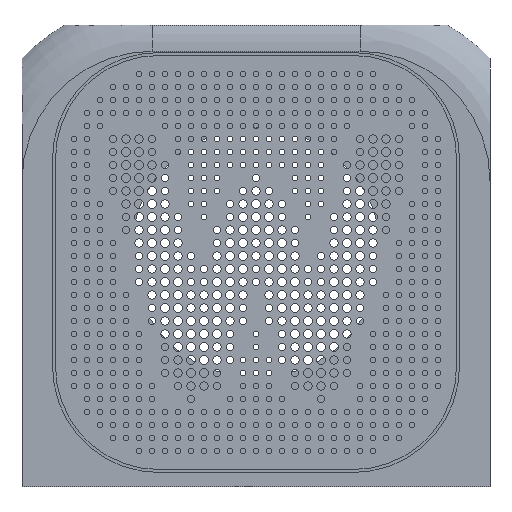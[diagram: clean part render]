
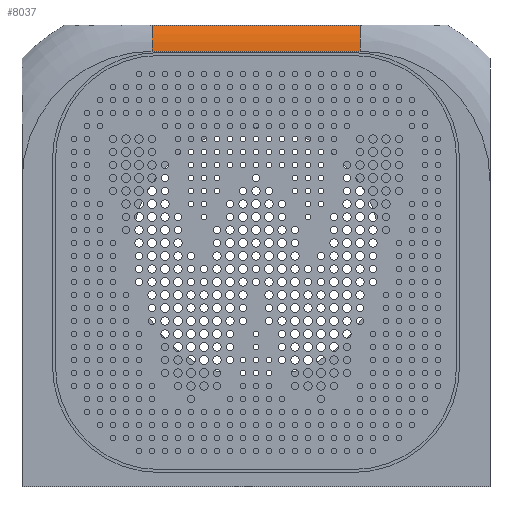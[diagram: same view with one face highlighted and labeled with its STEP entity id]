
A CAD part, front view. The second image highlights one B-rep face of the part: STEP entity #8037.
In plain terms, the highlighted cylindrical face has radius 9.2 mm (diameter 18.4 mm), a partial arc.
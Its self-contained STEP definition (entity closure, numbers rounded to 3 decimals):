
#7096 = PLANE('',#7097);
#7097 = AXIS2_PLACEMENT_3D('',#7098,#7099,#7100);
#7098 = CARTESIAN_POINT('',(-45.2,-14.4,-76.2));
#7099 = DIRECTION('',(0.,1.,0.));
#7100 = DIRECTION('',(0.,-0.,1.));
#7181 = VERTEX_POINT('',#7182);
#7182 = CARTESIAN_POINT('',(-16.,-14.4,67.));
#7201 = TOROIDAL_SURFACE('',#7202,20.,9.2);
#7202 = AXIS2_PLACEMENT_3D('',#7203,#7204,#7205);
#7203 = CARTESIAN_POINT('',(-16.,-5.2,47.));
#7204 = DIRECTION('',(0.,1.,0.));
#7205 = DIRECTION('',(0.,0.,1.));
#7213 = EDGE_CURVE('',#7214,#7181,#7216,.T.);
#7214 = VERTEX_POINT('',#7215);
#7215 = CARTESIAN_POINT('',(16.,-14.4,67.));
#7216 = SURFACE_CURVE('',#7217,(#7221,#7228),.PCURVE_S1.);
#7217 = LINE('',#7218,#7219);
#7218 = CARTESIAN_POINT('',(16.,-14.4,67.));
#7219 = VECTOR('',#7220,1.);
#7220 = DIRECTION('',(-1.,-0.,-0.));
#7221 = PCURVE('',#7096,#7222);
#7222 = DEFINITIONAL_REPRESENTATION('',(#7223),#7227);
#7223 = LINE('',#7224,#7225);
#7224 = CARTESIAN_POINT('',(143.2,61.2));
#7225 = VECTOR('',#7226,1.);
#7226 = DIRECTION('',(0.,-1.));
#7227 = ( GEOMETRIC_REPRESENTATION_CONTEXT(2) 
PARAMETRIC_REPRESENTATION_CONTEXT() REPRESENTATION_CONTEXT('2D SPACE',''
  ) );
#7228 = PCURVE('',#7229,#7234);
#7229 = CYLINDRICAL_SURFACE('',#7230,9.2);
#7230 = AXIS2_PLACEMENT_3D('',#7231,#7232,#7233);
#7231 = CARTESIAN_POINT('',(16.,-5.2,67.));
#7232 = DIRECTION('',(-1.,-0.,-0.));
#7233 = DIRECTION('',(0.,-1.,0.));
#7234 = DEFINITIONAL_REPRESENTATION('',(#7235),#7239);
#7235 = LINE('',#7236,#7237);
#7236 = CARTESIAN_POINT('',(0.,0.));
#7237 = VECTOR('',#7238,1.);
#7238 = DIRECTION('',(0.,1.));
#7239 = ( GEOMETRIC_REPRESENTATION_CONTEXT(2) 
PARAMETRIC_REPRESENTATION_CONTEXT() REPRESENTATION_CONTEXT('2D SPACE',''
  ) );
#7262 = TOROIDAL_SURFACE('',#7263,20.,9.2);
#7263 = AXIS2_PLACEMENT_3D('',#7264,#7265,#7266);
#7264 = CARTESIAN_POINT('',(16.,-5.2,47.));
#7265 = DIRECTION('',(0.,1.,0.));
#7266 = DIRECTION('',(1.,0.,0.));
#7920 = VERTEX_POINT('',#7921);
#7921 = CARTESIAN_POINT('',(16.,-13.485,71.));
#7981 = PLANE('',#7982);
#7982 = AXIS2_PLACEMENT_3D('',#7983,#7984,#7985);
#7983 = CARTESIAN_POINT('',(-36.,-15.,71.));
#7984 = DIRECTION('',(0.,0.,1.));
#7985 = DIRECTION('',(1.,0.,0.));
#8016 = EDGE_CURVE('',#7214,#7920,#8017,.T.);
#8017 = SURFACE_CURVE('',#8018,(#8023,#8029),.PCURVE_S1.);
#8018 = CIRCLE('',#8019,9.2);
#8019 = AXIS2_PLACEMENT_3D('',#8020,#8021,#8022);
#8020 = CARTESIAN_POINT('',(16.,-5.2,67.));
#8021 = DIRECTION('',(-1.,0.,0.));
#8022 = DIRECTION('',(0.,0.,1.));
#8023 = PCURVE('',#7262,#8024);
#8024 = DEFINITIONAL_REPRESENTATION('',(#8025),#8028);
#8025 = B_SPLINE_CURVE_WITH_KNOTS('',1,(#8026,#8027),.UNSPECIFIED.,.F.,
  .F.,(2,2),(4.712,6.283),.PIECEWISE_BEZIER_KNOTS.);
#8026 = CARTESIAN_POINT('',(4.712,4.712));
#8027 = CARTESIAN_POINT('',(4.712,6.283));
#8028 = ( GEOMETRIC_REPRESENTATION_CONTEXT(2) 
PARAMETRIC_REPRESENTATION_CONTEXT() REPRESENTATION_CONTEXT('2D SPACE',''
  ) );
#8029 = PCURVE('',#7229,#8030);
#8030 = DEFINITIONAL_REPRESENTATION('',(#8031),#8034);
#8031 = B_SPLINE_CURVE_WITH_KNOTS('',1,(#8032,#8033),.UNSPECIFIED.,.F.,
  .F.,(2,2),(4.712,6.283),.PIECEWISE_BEZIER_KNOTS.);
#8032 = CARTESIAN_POINT('',(0.,0.));
#8033 = CARTESIAN_POINT('',(1.571,0.));
#8034 = ( GEOMETRIC_REPRESENTATION_CONTEXT(2) 
PARAMETRIC_REPRESENTATION_CONTEXT() REPRESENTATION_CONTEXT('2D SPACE',''
  ) );
#8037 = ADVANCED_FACE('',(#8038),#7229,.T.);
#8038 = FACE_BOUND('',#8039,.T.);
#8039 = EDGE_LOOP('',(#8040,#8041,#8042,#8063));
#8040 = ORIENTED_EDGE('',*,*,#7213,.F.);
#8041 = ORIENTED_EDGE('',*,*,#8016,.T.);
#8042 = ORIENTED_EDGE('',*,*,#8043,.T.);
#8043 = EDGE_CURVE('',#7920,#8044,#8046,.T.);
#8044 = VERTEX_POINT('',#8045);
#8045 = CARTESIAN_POINT('',(-16.,-13.485,71.));
#8046 = SURFACE_CURVE('',#8047,(#8051,#8057),.PCURVE_S1.);
#8047 = LINE('',#8048,#8049);
#8048 = CARTESIAN_POINT('',(16.,-13.485,71.));
#8049 = VECTOR('',#8050,1.);
#8050 = DIRECTION('',(-1.,-0.,-0.));
#8051 = PCURVE('',#7229,#8052);
#8052 = DEFINITIONAL_REPRESENTATION('',(#8053),#8056);
#8053 = B_SPLINE_CURVE_WITH_KNOTS('',1,(#8054,#8055),.UNSPECIFIED.,.F.,
  .F.,(2,2),(0.,32.),.PIECEWISE_BEZIER_KNOTS.);
#8054 = CARTESIAN_POINT('',(0.45,0.));
#8055 = CARTESIAN_POINT('',(0.45,32.));
#8056 = ( GEOMETRIC_REPRESENTATION_CONTEXT(2) 
PARAMETRIC_REPRESENTATION_CONTEXT() REPRESENTATION_CONTEXT('2D SPACE',''
  ) );
#8057 = PCURVE('',#7981,#8058);
#8058 = DEFINITIONAL_REPRESENTATION('',(#8059),#8062);
#8059 = B_SPLINE_CURVE_WITH_KNOTS('',1,(#8060,#8061),.UNSPECIFIED.,.F.,
  .F.,(2,2),(0.,32.),.PIECEWISE_BEZIER_KNOTS.);
#8060 = CARTESIAN_POINT('',(52.,1.515));
#8061 = CARTESIAN_POINT('',(20.,1.515));
#8062 = ( GEOMETRIC_REPRESENTATION_CONTEXT(2) 
PARAMETRIC_REPRESENTATION_CONTEXT() REPRESENTATION_CONTEXT('2D SPACE',''
  ) );
#8063 = ORIENTED_EDGE('',*,*,#8064,.F.);
#8064 = EDGE_CURVE('',#7181,#8044,#8065,.T.);
#8065 = SURFACE_CURVE('',#8066,(#8071,#8077),.PCURVE_S1.);
#8066 = CIRCLE('',#8067,9.2);
#8067 = AXIS2_PLACEMENT_3D('',#8068,#8069,#8070);
#8068 = CARTESIAN_POINT('',(-16.,-5.2,67.));
#8069 = DIRECTION('',(-1.,0.,0.));
#8070 = DIRECTION('',(0.,-1.,0.));
#8071 = PCURVE('',#7229,#8072);
#8072 = DEFINITIONAL_REPRESENTATION('',(#8073),#8076);
#8073 = B_SPLINE_CURVE_WITH_KNOTS('',1,(#8074,#8075),.UNSPECIFIED.,.F.,
  .F.,(2,2),(0.,1.571),.PIECEWISE_BEZIER_KNOTS.);
#8074 = CARTESIAN_POINT('',(0.,32.));
#8075 = CARTESIAN_POINT('',(1.571,32.));
#8076 = ( GEOMETRIC_REPRESENTATION_CONTEXT(2) 
PARAMETRIC_REPRESENTATION_CONTEXT() REPRESENTATION_CONTEXT('2D SPACE',''
  ) );
#8077 = PCURVE('',#7201,#8078);
#8078 = DEFINITIONAL_REPRESENTATION('',(#8079),#8082);
#8079 = B_SPLINE_CURVE_WITH_KNOTS('',1,(#8080,#8081),.UNSPECIFIED.,.F.,
  .F.,(2,2),(0.,1.571),.PIECEWISE_BEZIER_KNOTS.);
#8080 = CARTESIAN_POINT('',(6.283,4.712));
#8081 = CARTESIAN_POINT('',(6.283,6.283));
#8082 = ( GEOMETRIC_REPRESENTATION_CONTEXT(2) 
PARAMETRIC_REPRESENTATION_CONTEXT() REPRESENTATION_CONTEXT('2D SPACE',''
  ) );
